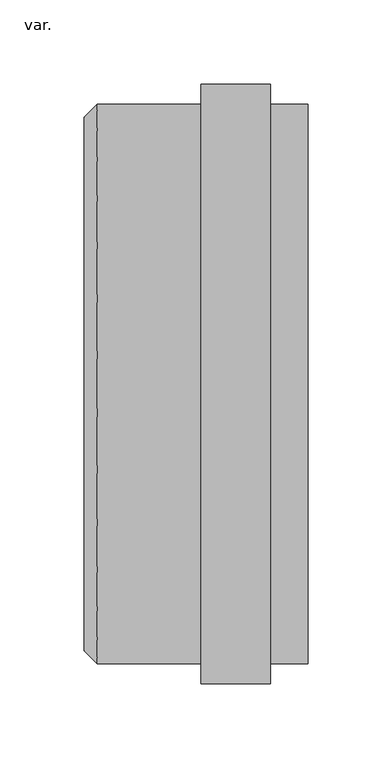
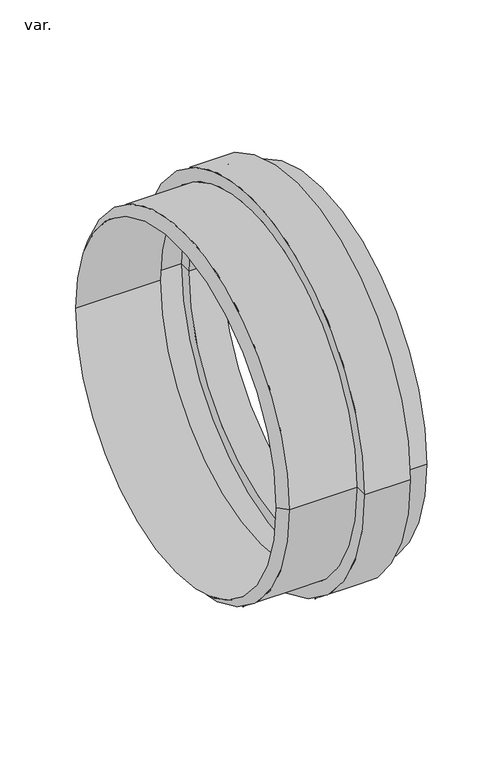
"""IFC4 building model written with IfcOpenShell, lengths in millimetres: pipe fitting geometry, AmancoWavin_ConexõesdeTubos_SaneamentoEsgotoNãoUsarBolsa : var.."""

from ifc_helpers import new_model, si_unit, frame, origin, place, context, project, spatial, polyline, circle_curve, source, transform, mapped, element, save
from ifc_brep_helpers import plane_surface, cylinder_surface, revolved_surface, advanced_brep


def var_a52b8fc5(model_context):
    return source(origin(), model_context, "Body", "AdvancedBrep", [
        advanced_brep(
        [(-55.7, -169.95, 0.0), (-55.7, 169.95, 0.0), (-55.7, 158.175, 0.0), (-55.7, -158.175, 0.0), (-29.8, -169.95, 0.0), (-29.8, 169.95, 0.0), (-29.8, -158.175, 0.0), (-29.8, 158.175, 0.0), (0.0, -158.175, 0.0), (0.0, 158.175, 0.0), (0.0, -165.875, 0.0), (0.0, 165.875, 0.0), (-22.1, -165.875, 0.0), (-22.1, 165.875, 0.0), (-22.1, -177.65, 0.0), (-22.1, 177.65, 0.0), (-63.4, -177.65, 0.0), (-63.4, 177.65, 0.0), (-63.4, -165.875, 0.0), (-63.4, 165.875, 0.0), (-125.0, -165.875, 0.0), (-125.0, 165.875, 0.0), (-132.7, 158.175, 0.0), (-132.7, -158.175, 0.0)],
        [
            (0, 1, circle_curve(frame((-55.7, 0.0, 0.0), z_axis=(1.0, 0.0, 0.0), x_axis=(0.0, 1.0, 0.0)), 169.95)),
            (1, 2),
            (2, 3, circle_curve(frame((-55.7, 0.0, 0.0), z_axis=(-1.0, 0.0, 0.0), x_axis=(0.0, 1.0, 0.0)), 158.175)),
            (3, 0),
            (1, 0, circle_curve(frame((-55.7, 0.0, 0.0), z_axis=(1.0, 0.0, 0.0), x_axis=(0.0, 1.0, 0.0)), 169.95)),
            (3, 2, circle_curve(frame((-55.7, 0.0, 0.0), z_axis=(-1.0, 0.0, 0.0), x_axis=(0.0, 1.0, 0.0)), 158.175)),
            (4, 5, circle_curve(frame((-29.8, 0.0, 0.0), z_axis=(1.0, 0.0, 0.0), x_axis=(0.0, 1.0, 0.0)), 169.95)),
            (5, 1),
            (0, 4),
            (5, 4, circle_curve(frame((-29.8, 0.0, 0.0), z_axis=(1.0, 0.0, 0.0), x_axis=(0.0, 1.0, 0.0)), 169.95)),
            (6, 7, circle_curve(frame((-29.8, 0.0, 0.0), z_axis=(1.0, 0.0, 0.0), x_axis=(0.0, 1.0, 0.0)), 158.175)),
            (7, 5),
            (4, 6),
            (7, 6, circle_curve(frame((-29.8, 0.0, 0.0), z_axis=(1.0, 0.0, 0.0), x_axis=(0.0, 1.0, 0.0)), 158.175)),
            (8, 9, circle_curve(frame((0.0, 0.0, 0.0), z_axis=(1.0, 0.0, 0.0), x_axis=(0.0, 1.0, 0.0)), 158.175)),
            (9, 7),
            (6, 8),
            (9, 8, circle_curve(frame((0.0, 0.0, 0.0), z_axis=(1.0, 0.0, 0.0), x_axis=(0.0, 1.0, 0.0)), 158.175)),
            (10, 11, circle_curve(frame((0.0, 0.0, 0.0), z_axis=(1.0, 0.0, 0.0), x_axis=(0.0, 1.0, 0.0)), 165.875)),
            (11, 9),
            (8, 10),
            (11, 10, circle_curve(frame((0.0, 0.0, 0.0), z_axis=(1.0, 0.0, 0.0), x_axis=(0.0, 1.0, 0.0)), 165.875)),
            (12, 13, circle_curve(frame((-22.1, 0.0, 0.0), z_axis=(1.0, 0.0, 0.0), x_axis=(0.0, 1.0, 0.0)), 165.875)),
            (13, 11),
            (10, 12),
            (13, 12, circle_curve(frame((-22.1, 0.0, 0.0), z_axis=(1.0, 0.0, 0.0), x_axis=(0.0, 1.0, 0.0)), 165.875)),
            (14, 15, circle_curve(frame((-22.1, 0.0, 0.0), z_axis=(1.0, 0.0, 0.0), x_axis=(0.0, 1.0, 0.0)), 177.65)),
            (15, 13),
            (12, 14),
            (15, 14, circle_curve(frame((-22.1, 0.0, 0.0), z_axis=(1.0, 0.0, 0.0), x_axis=(0.0, 1.0, 0.0)), 177.65)),
            (16, 17, circle_curve(frame((-63.4, 0.0, 0.0), z_axis=(1.0, 0.0, 0.0), x_axis=(0.0, 1.0, 0.0)), 177.65)),
            (17, 15),
            (14, 16),
            (17, 16, circle_curve(frame((-63.4, 0.0, 0.0), z_axis=(1.0, 0.0, 0.0), x_axis=(0.0, 1.0, 0.0)), 177.65)),
            (18, 19, circle_curve(frame((-63.4, 0.0, 0.0), z_axis=(1.0, 0.0, 0.0), x_axis=(0.0, 1.0, 0.0)), 165.875)),
            (19, 17),
            (16, 18),
            (19, 18, circle_curve(frame((-63.4, 0.0, 0.0), z_axis=(1.0, 0.0, 0.0), x_axis=(0.0, 1.0, 0.0)), 165.875)),
            (20, 21, circle_curve(frame((-125.0, 0.0, 0.0), z_axis=(1.0, 0.0, 0.0), x_axis=(0.0, 1.0, 0.0)), 165.875)),
            (21, 19),
            (18, 20),
            (21, 20, circle_curve(frame((-125.0, 0.0, 0.0), z_axis=(1.0, 0.0, 0.0), x_axis=(0.0, 1.0, 0.0)), 165.875)),
            (2, 22),
            (22, 23, circle_curve(frame((-132.7, 0.0, 0.0), z_axis=(-1.0, 0.0, 0.0), x_axis=(0.0, 1.0, 0.0)), 158.175)),
            (23, 3),
            (23, 22, circle_curve(frame((-132.7, 0.0, 0.0), z_axis=(-1.0, 0.0, 0.0), x_axis=(0.0, 1.0, 0.0)), 158.175)),
            (22, 21),
            (20, 23),
        ],
        [
            plane_surface(frame((-55.7, 0.0, 0.0), z_axis=(1.0, 0.0, 0.0), x_axis=(0.0, 1.0, 0.0))),
            revolved_surface(polyline([(-55.69999999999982, 169.95, 0.0), (-29.799999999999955, 169.95, 0.0)]), (2000.0, 0.0, 0.0), (-1.0, 0.0, 0.0)),
            plane_surface(frame((-29.8, 0.0, 0.0), z_axis=(-1.0, 0.0, 0.0), x_axis=(0.0, 1.0, 0.0))),
            revolved_surface(polyline([(-29.799999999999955, 158.175, 0.0), (0.0, 158.175, 0.0)]), (2000.0, 0.0, 0.0), (-1.0, 0.0, 0.0)),
            plane_surface(frame((0.0, 0.0, 0.0), z_axis=(1.0, 0.0, 0.0), x_axis=(0.0, 1.0, 0.0))),
            cylinder_surface(frame((2000.0, 0.0, 0.0), z_axis=(-1.0, 0.0, 0.0), x_axis=(0.0, 1.0, 0.0)), 165.875),
            plane_surface(frame((-22.1, 0.0, 0.0), z_axis=(1.0, 0.0, 0.0), x_axis=(0.0, 1.0, 0.0))),
            cylinder_surface(frame((2000.0, 0.0, 0.0), z_axis=(-1.0, 0.0, 0.0), x_axis=(0.0, 1.0, 0.0)), 177.65),
            plane_surface(frame((-63.4, 0.0, 0.0), z_axis=(-1.0, 0.0, 0.0), x_axis=(0.0, 1.0, 0.0))),
            revolved_surface(polyline([(-132.69999999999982, 158.175, 0.0), (-55.69999999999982, 158.175, 0.0)]), (2000.0, 0.0, 0.0), (-1.0, 0.0, 0.0)),
            revolved_surface(polyline([(-125.0, 165.875, 0.0), (-132.7, 158.175, 0.0)]), (2000.0, 0.0, 0.0), (-1.0, 0.0, 0.0)),
        ],
        [
            (0, [[1, 2, 3, 4]]),
            (0, [[5, -4, 6, -2]]),
            (1, [[7, 8, -1, 9]]),
            (1, [[10, -9, -5, -8]]),
            (2, [[11, 12, -7, 13]]),
            (2, [[14, -13, -10, -12]]),
            (3, [[15, 16, -11, 17]]),
            (3, [[18, -17, -14, -16]]),
            (4, [[19, 20, -15, 21]]),
            (4, [[22, -21, -18, -20]]),
            (5, [[23, 24, -19, 25]]),
            (5, [[26, -25, -22, -24]]),
            (6, [[27, 28, -23, 29]]),
            (6, [[30, -29, -26, -28]]),
            (7, [[31, 32, -27, 33]]),
            (7, [[34, -33, -30, -32]]),
            (8, [[35, 36, -31, 37]]),
            (8, [[38, -37, -34, -36]]),
            (5, [[39, 40, -35, 41]]),
            (5, [[42, -41, -38, -40]]),
            (9, [[-3, 43, 44, 45]]),
            (9, [[-6, -45, 46, -43]]),
            (10, [[-44, 47, -39, 48]]),
            (10, [[-46, -48, -42, -47]]),
        ],
    ),
    ])


if __name__ == "__main__":
    model = new_model("IFC4")
    model_context = context("Model", 3, world=origin())
    ifc_project = project(units=[si_unit("LENGTHUNIT", "METRE", prefix="MILLI")], contexts=[model_context])
    site = spatial("IfcSite", under=ifc_project)
    building = spatial("IfcBuilding", under=site)
    placement = place(None, origin())
    var_shape = var_a52b8fc5(model_context)
    element("IfcPipeFitting", 1, ObjectType="AmancoWavin_ConexõesdeTubos_SaneamentoEsgotoNãoUsarBolsa : var.", at=placement, inside=building, context=model_context, shape_type="MappedRepresentation", body=[
        mapped(var_shape, transform((0.0, 0.0, 0.0), x_axis=(1.0, 0.0, 0.0), y_axis=(0.0, 1.0, 0.0), z_axis=(0.0, 0.0, 1.0))),
    ])
    save(model, "model.ifc")
